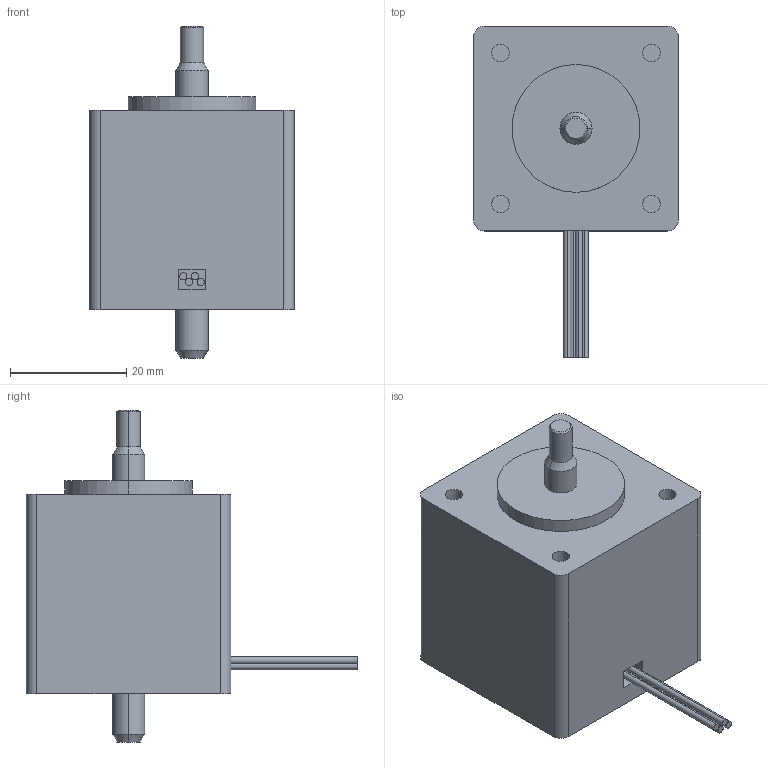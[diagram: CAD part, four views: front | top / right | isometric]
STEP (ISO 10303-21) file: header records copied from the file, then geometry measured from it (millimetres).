
FILE_DESCRIPTION (( 'STEP AP214' ), '1' );
FILE_NAME ('AMETEK-35F4N-2.33-2-4.STEP', '2020-05-30T06:44:17', ( '' ), ( '' ), 'SwSTEP 2.0', 'SolidWorks 2019', '' );
FILE_SCHEMA (( 'AUTOMOTIVE_DESIGN' ));
Length unit declared in the file: inch
Products named in the file (3): 35000_Non_Captive_None; AMETEK-35F4N-2.33-2-4; 35000_Non_Captive_Screw
Assembly tree (2 placements, depth 2):
  AMETEK-35F4N-2.33-2-4
    35000_Non_Captive_None
    35000_Non_Captive_Screw
Bounding box: 35.2 x 57.02 x 57.15 mm (x, y, z)
Volume: 43640.5 mm3; surface area: 9553.1 mm2
Topology: 2 solids, 2 shells, 59 faces, 124 edges, 80 vertices
Faces by surface type: cylinder 30, plane 23, cone 6
Entity records: 2363 total; most frequent: DIRECTION 316, CARTESIAN_POINT 268, ORIENTED_EDGE 248, AXIS2_PLACEMENT_3D 128, EDGE_CURVE 124, VERTEX_POINT 80, EDGE_LOOP 72, CIRCLE 64
